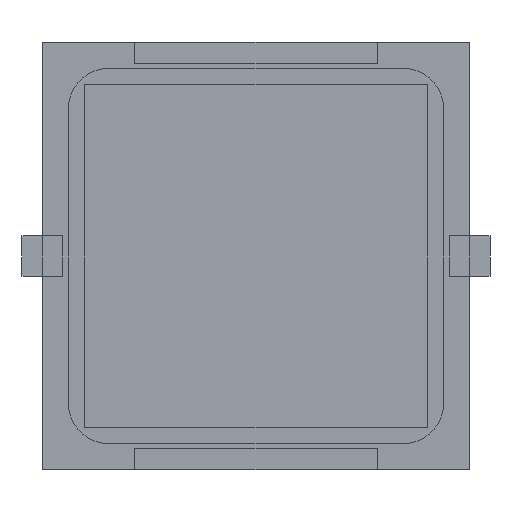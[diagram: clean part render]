
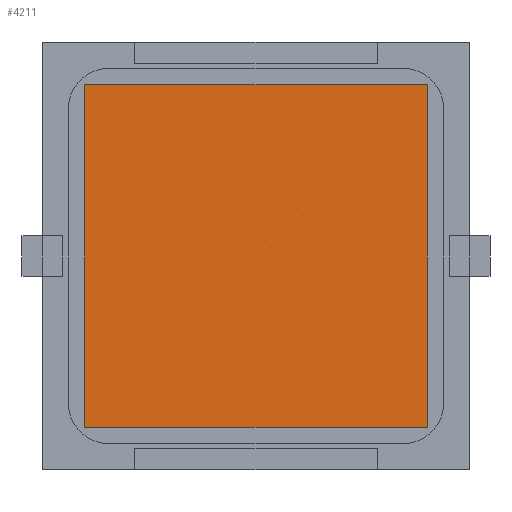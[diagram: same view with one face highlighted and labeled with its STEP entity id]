
A CAD part, front view. The second image highlights one B-rep face of the part: STEP entity #4211.
In plain terms, the highlighted planar face has unit normal (0, -1, 0).
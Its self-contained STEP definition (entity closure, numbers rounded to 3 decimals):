
#113 = EDGE_CURVE ( 'NONE', #5516, #4085, #5409, .T. ) ;
#140 = FACE_OUTER_BOUND ( 'NONE', #2366, .T. ) ;
#335 = ORIENTED_EDGE ( 'NONE', *, *, #2768, .F. ) ;
#352 = EDGE_CURVE ( 'NONE', #2073, #1654, #1619, .T. ) ;
#371 = LINE ( 'NONE', #3956, #3629 ) ;
#447 = CARTESIAN_POINT ( 'NONE',  ( 8.5, -0.127, -8.5 ) ) ;
#612 = VECTOR ( 'NONE', #4511, 1000. ) ;
#631 = CARTESIAN_POINT ( 'NONE',  ( 8.5, -0.127, -8.5 ) ) ;
#720 = DIRECTION ( 'NONE',  ( -1., 0., 0. ) ) ;
#873 = ORIENTED_EDGE ( 'NONE', *, *, #4092, .F. ) ;
#896 = CARTESIAN_POINT ( 'NONE',  ( 8.5, -0.127, 8.5 ) ) ;
#1061 = CARTESIAN_POINT ( 'NONE',  ( -8.5, -0.127, 8.5 ) ) ;
#1439 = DIRECTION ( 'NONE',  ( 0., 0., 1. ) ) ;
#1619 = LINE ( 'NONE', #4772, #2502 ) ;
#1654 = VERTEX_POINT ( 'NONE', #2057 ) ;
#1755 = ORIENTED_EDGE ( 'NONE', *, *, #352, .F. ) ;
#1845 = ORIENTED_EDGE ( 'NONE', *, *, #113, .F. ) ;
#2009 = VECTOR ( 'NONE', #2689, 1000. ) ;
#2057 = CARTESIAN_POINT ( 'NONE',  ( -8.5, -0.127, -8.5 ) ) ;
#2073 = VERTEX_POINT ( 'NONE', #631 ) ;
#2231 = CARTESIAN_POINT ( 'NONE',  ( -8.5, -0.127, 8.5 ) ) ;
#2366 = EDGE_LOOP ( 'NONE', ( #335, #1755, #873, #1845 ) ) ;
#2502 = VECTOR ( 'NONE', #720, 1000. ) ;
#2689 = DIRECTION ( 'NONE',  ( 0., 0., -1. ) ) ;
#2768 = EDGE_CURVE ( 'NONE', #1654, #5516, #371, .T. ) ;
#2839 = DIRECTION ( 'NONE',  ( 0., 1., 0. ) ) ;
#3042 = AXIS2_PLACEMENT_3D ( 'NONE', #1061, #2839, #1439 ) ;
#3629 = VECTOR ( 'NONE', #5349, 1000. ) ;
#3956 = CARTESIAN_POINT ( 'NONE',  ( -8.5, -0.127, -8.5 ) ) ;
#4085 = VERTEX_POINT ( 'NONE', #896 ) ;
#4092 = EDGE_CURVE ( 'NONE', #4085, #2073, #4491, .T. ) ;
#4211 = ADVANCED_FACE ( 'NONE', ( #140 ), #5553, .F. ) ;
#4491 = LINE ( 'NONE', #447, #2009 ) ;
#4511 = DIRECTION ( 'NONE',  ( 1., 0., 0. ) ) ;
#4772 = CARTESIAN_POINT ( 'NONE',  ( -8.5, -0.127, -8.5 ) ) ;
#4886 = CARTESIAN_POINT ( 'NONE',  ( -8.5, -0.127, 8.5 ) ) ;
#5349 = DIRECTION ( 'NONE',  ( 0., 0., 1. ) ) ;
#5409 = LINE ( 'NONE', #2231, #612 ) ;
#5516 = VERTEX_POINT ( 'NONE', #4886 ) ;
#5553 = PLANE ( 'NONE',  #3042 ) ;
